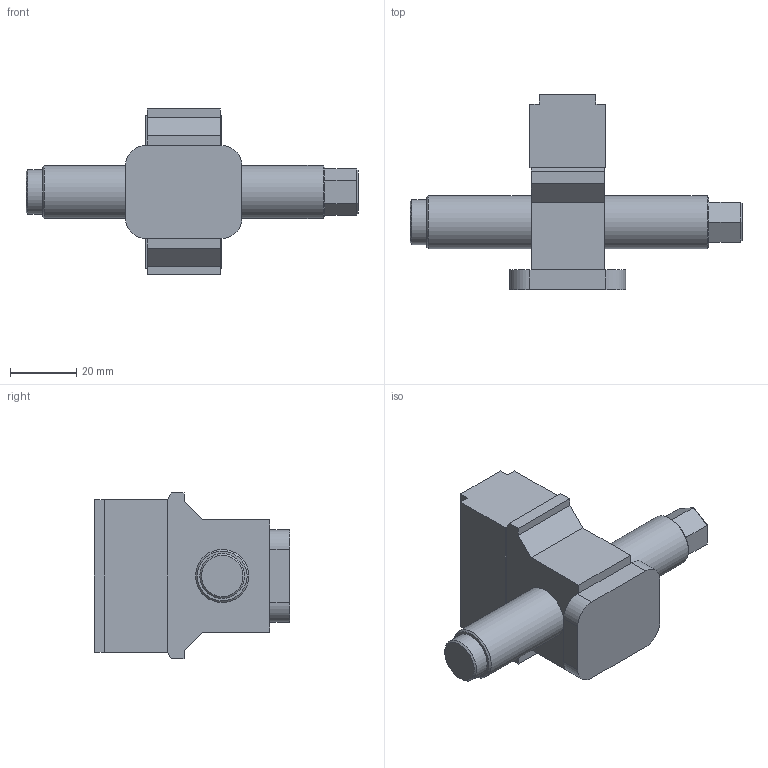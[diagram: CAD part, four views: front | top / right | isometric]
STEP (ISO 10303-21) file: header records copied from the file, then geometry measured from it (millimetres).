
FILE_DESCRIPTION (( 'STEP AP214' ), '1' );
FILE_NAME ('48085-TG-4617.STEP', '2020-03-24T14:33:11', ( '' ), ( '' ), 'SwSTEP 2.0', 'SolidWorks 2019', '' );
FILE_SCHEMA (( 'AUTOMOTIVE_DESIGN' ));
Length unit declared in the file: millimetre
Products named in the file (1): 48085-TG-4617
Bounding box: 100 x 58.8 x 50 mm (x, y, z)
Volume: 67944 mm3; surface area: 14046.5 mm2
Topology: 1 solids, 1 shells, 71 faces, 171 edges, 107 vertices
Faces by surface type: plane 61, cylinder 7, cone 3
Full cylindrical faces by diameter (mm): 13.5 x1, 16 x2
Entity records: 2506 total; most frequent: CARTESIAN_POINT 340, ORIENTED_EDGE 326, DIRECTION 324, EDGE_CURVE 163, VECTOR 146, LINE 146, VERTEX_POINT 105, AXIS2_PLACEMENT_3D 89
